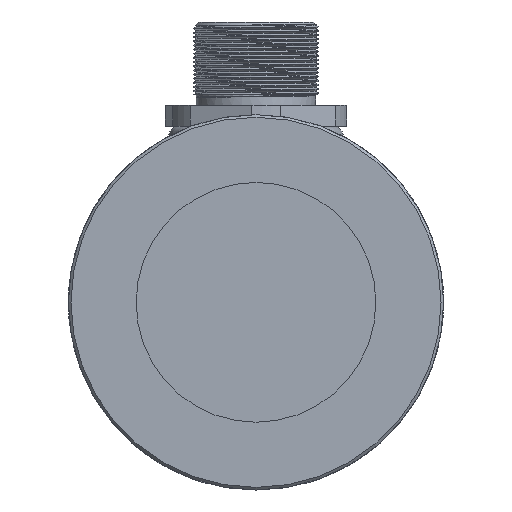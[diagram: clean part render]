
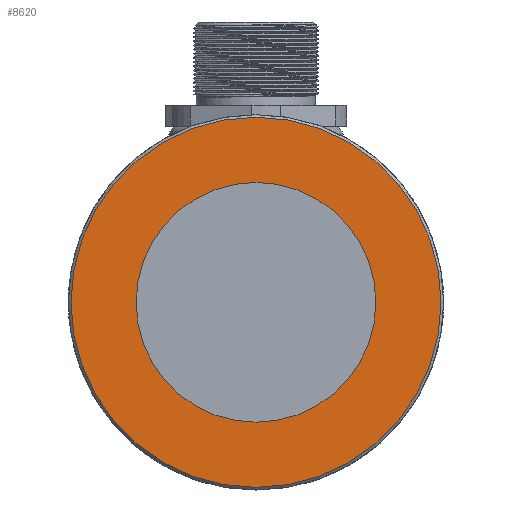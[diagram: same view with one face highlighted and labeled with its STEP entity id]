
A CAD part, left-side view. The second image highlights one B-rep face of the part: STEP entity #8620.
In plain terms, the highlighted planar face has unit normal (-1, 0, 0).
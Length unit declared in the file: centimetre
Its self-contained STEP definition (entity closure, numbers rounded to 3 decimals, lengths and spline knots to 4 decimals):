
#2693=PLANE('',#9125);
#3062=VERTEX_POINT('',#9659);
#3084=VERTEX_POINT('',#9836);
#3835=CIRCLE('',#9115,1.775);
#3844=CIRCLE('',#9126,1.15);
#3943=EDGE_CURVE('',#3062,#3062,#3835,.T.);
#3965=EDGE_CURVE('',#3084,#3084,#3844,.T.);
#5132=ORIENTED_EDGE('',*,*,#3965,.T.);
#5133=ORIENTED_EDGE('',*,*,#3943,.F.);
#7450=EDGE_LOOP('',(#5132));
#7451=EDGE_LOOP('',(#5133));
#8038=FACE_BOUND('',#7450,.T.);
#8039=FACE_BOUND('',#7451,.T.);
#8620=ADVANCED_FACE('',(#8038,#8039),#2693,.T.);
#9115=AXIS2_PLACEMENT_3D('',#9658,#23864,#23865);
#9125=AXIS2_PLACEMENT_3D('',#9834,#23892,$);
#9126=AXIS2_PLACEMENT_3D('',#9835,#23893,#23894);
#9658=CARTESIAN_POINT('',(0.,0.,0.));
#9659=CARTESIAN_POINT('',(0.,0.,-1.775));
#9834=CARTESIAN_POINT('',(0.,0.,-0.9));
#9835=CARTESIAN_POINT('',(0.,0.,0.));
#9836=CARTESIAN_POINT('',(0.,0.,1.15));
#23864=DIRECTION('',(1.,0.,0.));
#23865=DIRECTION('',(0.,0.,1.775));
#23892=DIRECTION('',(-1.,0.,0.));
#23893=DIRECTION('',(1.,0.,0.));
#23894=DIRECTION('',(0.,0.,1.15));
